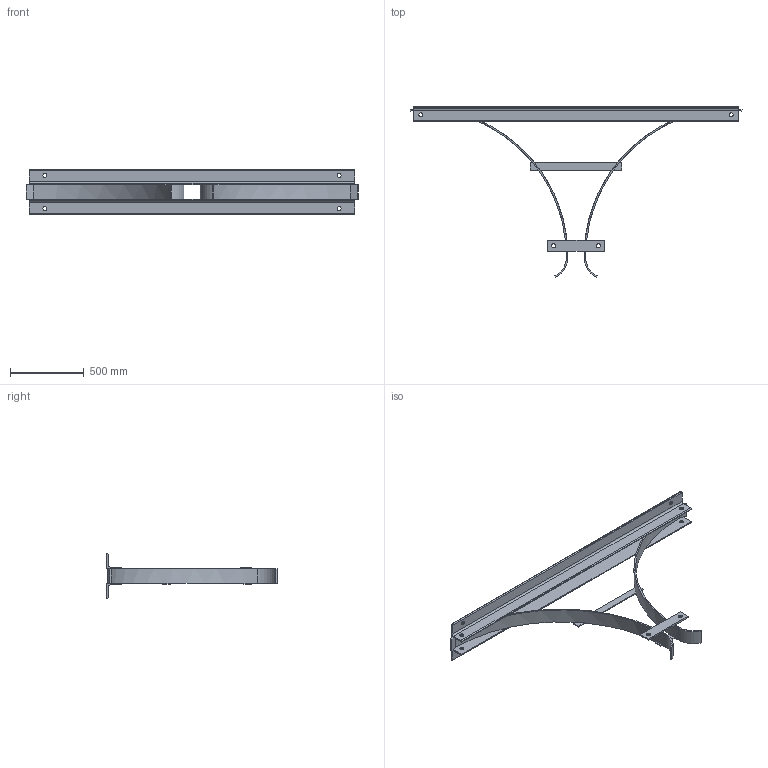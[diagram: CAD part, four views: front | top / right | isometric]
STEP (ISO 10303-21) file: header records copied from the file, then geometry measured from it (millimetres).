
FILE_DESCRIPTION(/* description */ (''),/* implementation_level */ '2;1');
FILE_NAME(/* name */ 'K:\NEMANJA\0700-6\CABLE REEL ACCESSORIES\09006604 FAF\STP NEMA\41773.stp',/* time_stamp */ '2017-12-01T10:04:30+01:00',/* author */ ('zeldjo01'),/* organization */ ('Hillmar Industries Ltd.'),/* preprocessor_version */ 'ST-DEVELOPER v16.1',/* originating_system */ 'Autodesk Inventor 2016',/* authorisation */ '');
FILE_SCHEMA (('AUTOMOTIVE_DESIGN { 1 0 10303 214 3 1 1 }'));
Length unit declared in the file: millimetre
Products named in the file (1): 41773 FAF-1000-GA FLIPOVER ANCHOR FUNNEL_Shrinkwrap_1
Bounding box: 2256.72 x 1158.46 x 302 mm (x, y, z)
Volume: 12553895.7 mm3; surface area: 2675618.9 mm2
Topology: 3 solids, 3 shells, 102 faces, 262 edges, 162 vertices
Faces by surface type: plane 74, cylinder 28
Full cylindrical faces by diameter (mm): 27 x10
Entity records: 3109 total; most frequent: DIRECTION 536, CARTESIAN_POINT 497, ORIENTED_EDGE 484, EDGE_CURVE 242, AXIS2_PLACEMENT_3D 191, LINE 154, VECTOR 154, VERTEX_POINT 152
